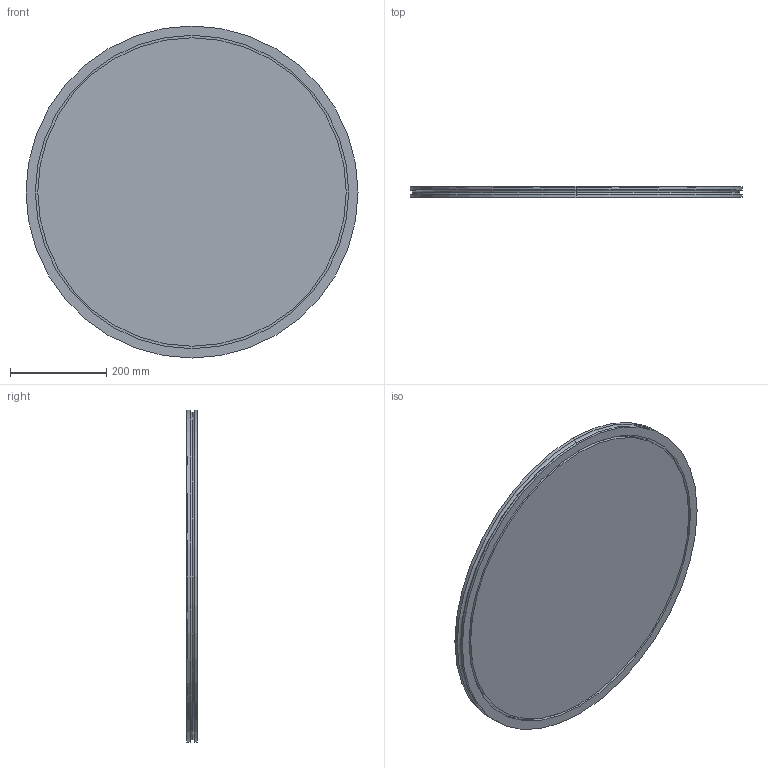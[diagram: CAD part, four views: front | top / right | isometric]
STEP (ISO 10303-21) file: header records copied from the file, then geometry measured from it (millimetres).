
FILE_DESCRIPTION (( 'STEP AP214' ), '1' );
FILE_NAME ('W4BF600.STEP', '2019-03-27T10:37:09', ( '' ), ( '' ), 'SwSTEP 2.0', 'SolidWorks 2018', '' );
FILE_SCHEMA (( 'AUTOMOTIVE_DESIGN' ));
Length unit declared in the file: millimetre
Products named in the file (1): W4BF600
Bounding box: 690 x 22 x 690 mm (x, y, z)
Volume: 8041163.5 mm3; surface area: 842497.1 mm2
Topology: 1 solids, 1 shells, 22 faces, 42 edges, 26 vertices
Faces by surface type: cylinder 12, plane 6, torus 4
Entity records: 602 total; most frequent: DIRECTION 118, CARTESIAN_POINT 91, ORIENTED_EDGE 84, AXIS2_PLACEMENT_3D 53, EDGE_CURVE 42, CIRCLE 30, EDGE_LOOP 26, VERTEX_POINT 26
